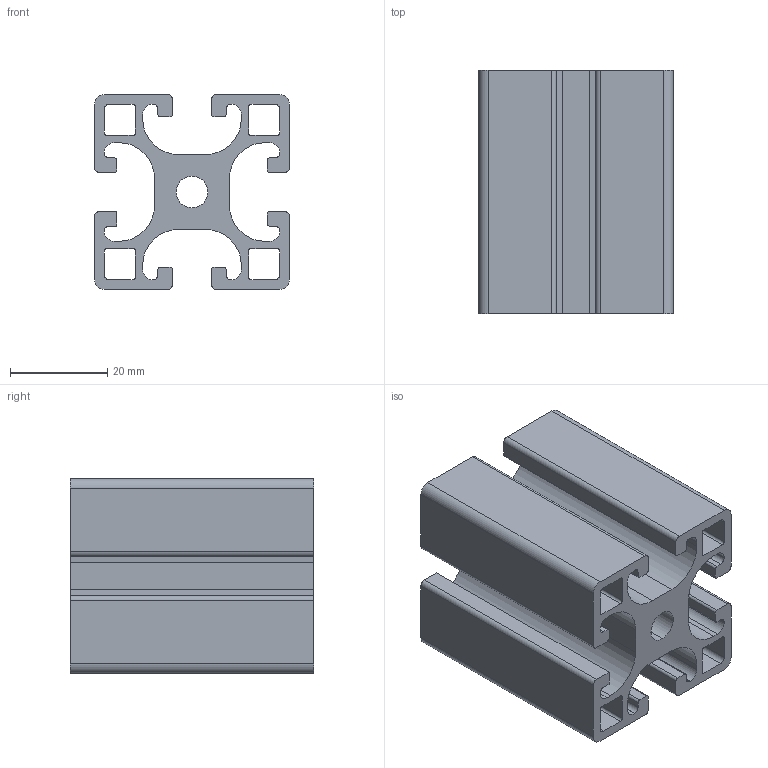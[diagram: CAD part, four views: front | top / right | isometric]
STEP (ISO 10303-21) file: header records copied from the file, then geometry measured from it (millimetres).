
FILE_DESCRIPTION (( 'STEP AP203' ), '1' );
FILE_NAME ('40X40.STEP', '2018-04-06T08:42:32', ( '' ), ( '' ), 'SwSTEP 2.0', 'SolidWorks 2014', '' );
FILE_SCHEMA (( 'CONFIG_CONTROL_DESIGN' ));
Length unit declared in the file: millimetre
Products named in the file (1): 40X40
Bounding box: 40 x 50 x 40 mm (x, y, z)
Volume: 33178.1 mm3; surface area: 24880.2 mm2
Topology: 1 solids, 1 shells, 138 faces, 408 edges, 272 vertices
Faces by surface type: plane 70, cylinder 68
Entity records: 4745 total; most frequent: DIRECTION 822, CARTESIAN_POINT 819, ORIENTED_EDGE 816, EDGE_CURVE 408, AXIS2_PLACEMENT_3D 275, VECTOR 272, LINE 272, VERTEX_POINT 272
